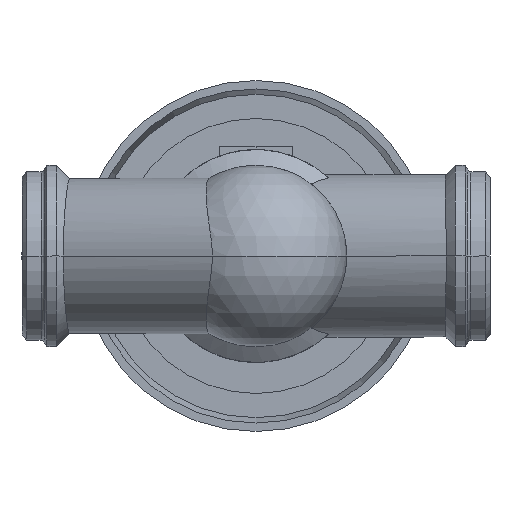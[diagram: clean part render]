
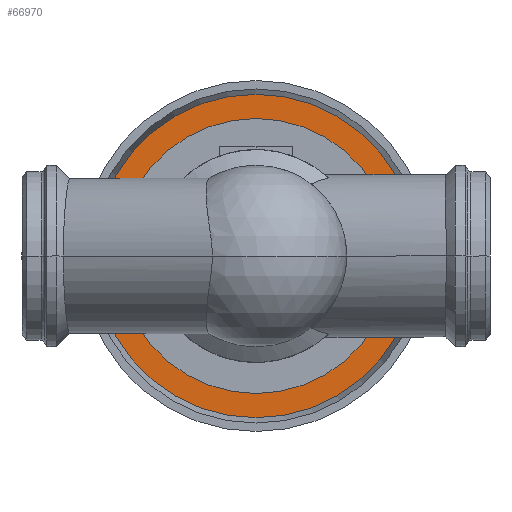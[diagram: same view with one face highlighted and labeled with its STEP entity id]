
A CAD part, front view. The second image highlights one B-rep face of the part: STEP entity #66970.
In plain terms, the highlighted planar face has unit normal (0, -1, 0).
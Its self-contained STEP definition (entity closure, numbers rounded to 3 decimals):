
#66420=CARTESIAN_POINT('',(338.198,529.9,0.));
#66430=VERTEX_POINT('',#66420);
#66510=CARTESIAN_POINT('',(61.802,529.9,0.));
#66520=VERTEX_POINT('',#66510);
#66550=CARTESIAN_POINT('',(200.,529.9,0.));
#66560=DIRECTION('',(0.,1.,0.));
#66570=DIRECTION('',(-1.,0.,0.));
#66580=AXIS2_PLACEMENT_3D('',#66550,#66560,#66570);
#66590=CIRCLE('',#66580,138.198);
#66600=EDGE_CURVE('',#66430,#66520,#66590,.T.);
#66720=CARTESIAN_POINT('',(74.901,529.9,0.))
;
#66730=DIRECTION('',(0.,-1.,0.));
#66740=DIRECTION('',(1.,0.,0.));
#66750=AXIS2_PLACEMENT_3D('',#66720,#66730,#66740);
#66760=PLANE('',#66750);
#66770=EDGE_CURVE('',#66520,#66430,#66590,.T.);
#66780=ORIENTED_EDGE('',*,*,#66770,.F.);
#66790=ORIENTED_EDGE('',*,*,#66600,.F.);
#66800=EDGE_LOOP('',(#66790,#66780));
#66810=FACE_OUTER_BOUND('',#66800,.T.);
#66820=CARTESIAN_POINT('',(200.,529.9,0.));
#66830=DIRECTION('',(0.,1.,0.));
#66840=DIRECTION('',(-1.,0.,0.));
#66850=AXIS2_PLACEMENT_3D('',#66820,#66830,#66840);
#66860=CIRCLE('',#66850,112.);
#66870=CARTESIAN_POINT('',(312.,529.9,0.));
#66880=VERTEX_POINT('',#66870);
#66890=CARTESIAN_POINT('',(88.,529.9,0.));
#66900=VERTEX_POINT('',#66890);
#66910=EDGE_CURVE('',#66880,#66900,#66860,.T.);
#66920=ORIENTED_EDGE('',*,*,#66910,.T.);
#66930=EDGE_CURVE('',#66900,#66880,#66860,.T.);
#66940=ORIENTED_EDGE('',*,*,#66930,.T.);
#66950=EDGE_LOOP('',(#66940,#66920));
#66960=FACE_BOUND('',#66950,.T.);
#66970=ADVANCED_FACE('',(#66810,#66960),#66760,.T.);
